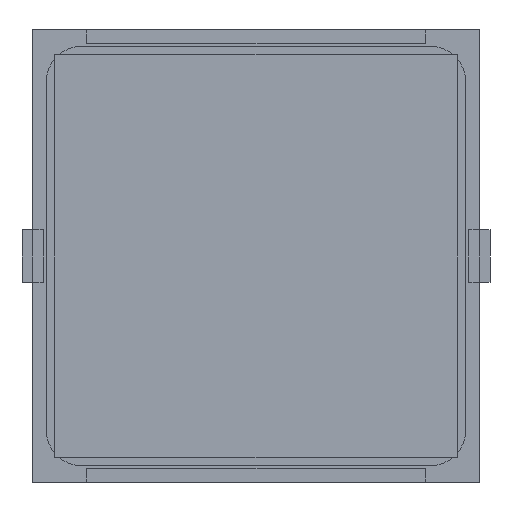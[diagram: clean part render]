
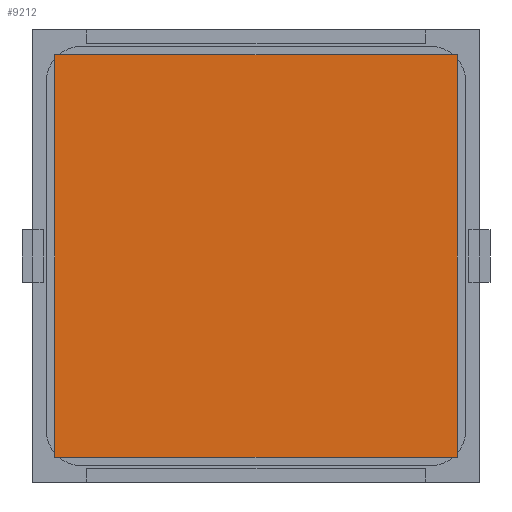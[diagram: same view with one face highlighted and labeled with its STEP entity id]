
A CAD part, front view. The second image highlights one B-rep face of the part: STEP entity #9212.
In plain terms, the highlighted planar face has unit normal (0, -1, 0).
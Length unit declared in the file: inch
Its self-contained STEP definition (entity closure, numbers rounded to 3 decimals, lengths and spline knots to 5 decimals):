
#259 = EDGE_CURVE ( 'NONE', #8599, #1411, #5644, .T. ) ;
#1064 = CARTESIAN_POINT ( 'NONE',  ( 0.74803, -0.005, -0.74803 ) ) ;
#1133 = PLANE ( 'NONE',  #8959 ) ;
#1411 = VERTEX_POINT ( 'NONE', #8031 ) ;
#2307 = ORIENTED_EDGE ( 'NONE', *, *, #11774, .F. ) ;
#2414 = LINE ( 'NONE', #5254, #4254 ) ;
#3275 = DIRECTION ( 'NONE',  ( 0., 0., 1. ) ) ;
#3926 = CARTESIAN_POINT ( 'NONE',  ( -0.74803, -0.005, 0.74803 ) ) ;
#4254 = VECTOR ( 'NONE', #6117, 39.37008 ) ;
#4311 = LINE ( 'NONE', #5293, #7659 ) ;
#4509 = ORIENTED_EDGE ( 'NONE', *, *, #259, .F. ) ;
#4870 = DIRECTION ( 'NONE',  ( 0., 1., 0. ) ) ;
#5254 = CARTESIAN_POINT ( 'NONE',  ( 0.74803, -0.005, -0.74803 ) ) ;
#5293 = CARTESIAN_POINT ( 'NONE',  ( -0.74803, -0.005, 0.74803 ) ) ;
#5644 = LINE ( 'NONE', #11420, #6975 ) ;
#5705 = FACE_OUTER_BOUND ( 'NONE', #10050, .T. ) ;
#6117 = DIRECTION ( 'NONE',  ( 0., 0., -1. ) ) ;
#6564 = VERTEX_POINT ( 'NONE', #11834 ) ;
#6775 = EDGE_CURVE ( 'NONE', #1411, #8688, #7952, .T. ) ;
#6975 = VECTOR ( 'NONE', #8626, 39.37008 ) ;
#7659 = VECTOR ( 'NONE', #10195, 39.37008 ) ;
#7672 = DIRECTION ( 'NONE',  ( 0., 0., 1. ) ) ;
#7952 = LINE ( 'NONE', #11644, #12009 ) ;
#8023 = CARTESIAN_POINT ( 'NONE',  ( -0.74803, -0.005, 0.74803 ) ) ;
#8031 = CARTESIAN_POINT ( 'NONE',  ( -0.74803, -0.005, -0.74803 ) ) ;
#8599 = VERTEX_POINT ( 'NONE', #1064 ) ;
#8626 = DIRECTION ( 'NONE',  ( -1., 0., 0. ) ) ;
#8688 = VERTEX_POINT ( 'NONE', #8023 ) ;
#8740 = ORIENTED_EDGE ( 'NONE', *, *, #6775, .F. ) ;
#8959 = AXIS2_PLACEMENT_3D ( 'NONE', #3926, #4870, #7672 ) ;
#9011 = EDGE_CURVE ( 'NONE', #6564, #8599, #2414, .T. ) ;
#9212 = ADVANCED_FACE ( 'NONE', ( #5705 ), #1133, .F. ) ;
#10050 = EDGE_LOOP ( 'NONE', ( #8740, #4509, #10496, #2307 ) ) ;
#10195 = DIRECTION ( 'NONE',  ( 1., 0., 0. ) ) ;
#10496 = ORIENTED_EDGE ( 'NONE', *, *, #9011, .F. ) ;
#11420 = CARTESIAN_POINT ( 'NONE',  ( -0.74803, -0.005, -0.74803 ) ) ;
#11644 = CARTESIAN_POINT ( 'NONE',  ( -0.74803, -0.005, -0.74803 ) ) ;
#11774 = EDGE_CURVE ( 'NONE', #8688, #6564, #4311, .T. ) ;
#11834 = CARTESIAN_POINT ( 'NONE',  ( 0.74803, -0.005, 0.74803 ) ) ;
#12009 = VECTOR ( 'NONE', #3275, 39.37008 ) ;
